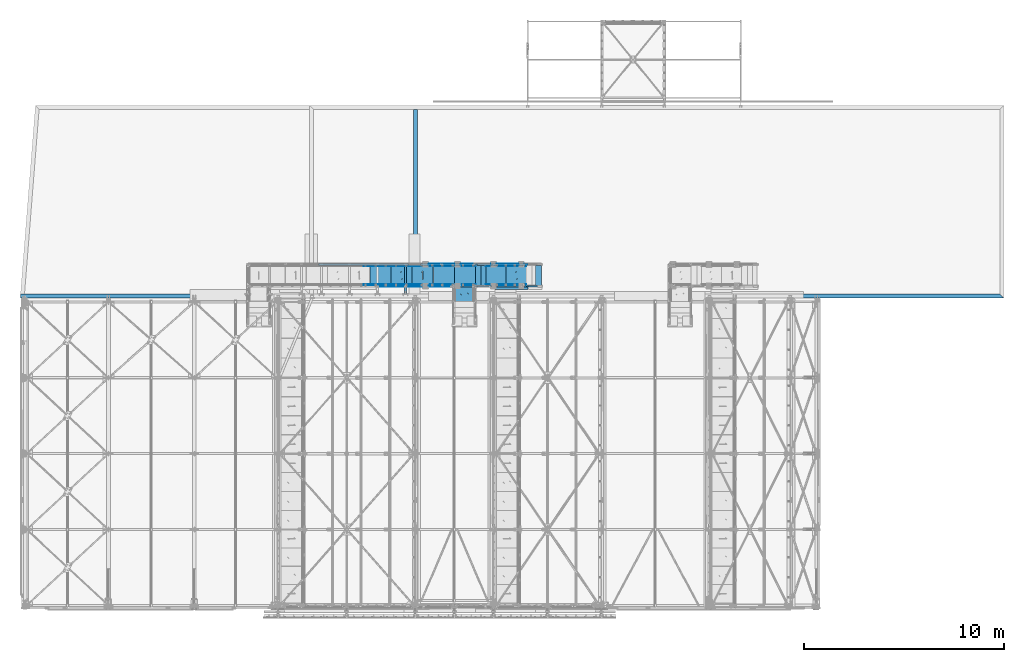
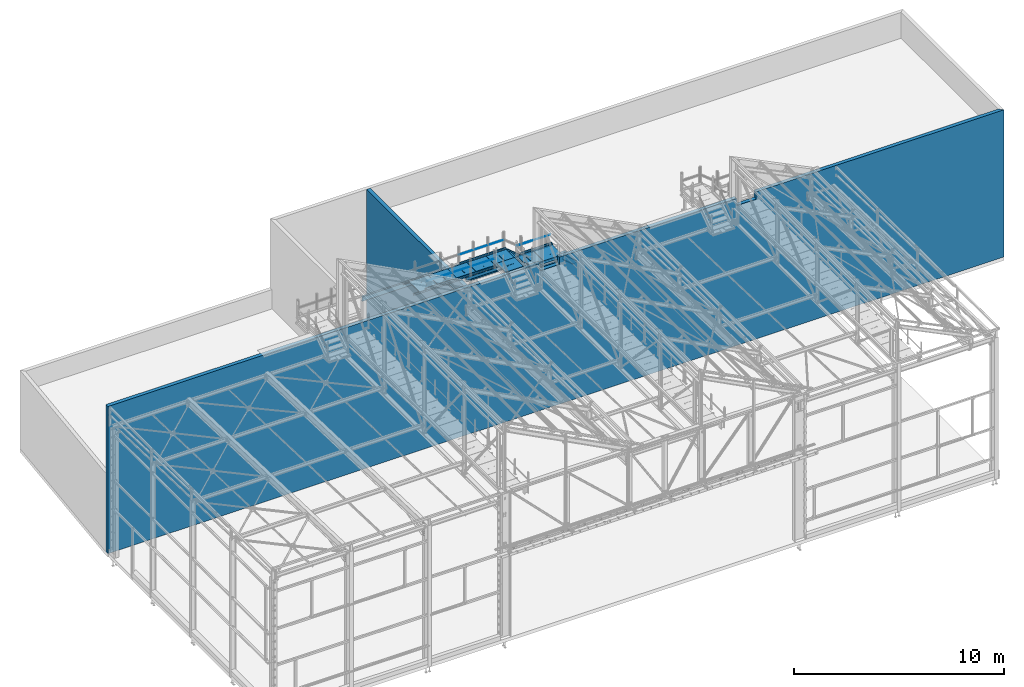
# One storey, part 53 of 362: 30 beams, 3 members, 25 elements without a shape of their own.
"""IFC2X3 building model written with IfcOpenShell, lengths in millimetres."""

from ifc_helpers import new_model, si_unit, frame, origin_with_axes, origin_2d_with_axis, place, context, subcontext, project, spatial, polyline, rectangle, hollow_rectangle, hollow_circle, l_section, u_section, outline, extrude, boolean, clip, halfspace, material, type_object, element, aggregate, save


model = new_model("IFC2X3")

# Units and contexts
model_context = context("Model", 3, precision=1e-05, world=origin_with_axes())
body_context = subcontext(model_context, "Body", "Model", "MODEL_VIEW")
ifc_project = project(units=[si_unit("LENGTHUNIT", "METRE", prefix="MILLI"), si_unit("AREAUNIT", "SQUARE_METRE"), si_unit("VOLUMEUNIT", "CUBIC_METRE"), si_unit("MASSUNIT", "GRAM", prefix="KILO"), si_unit("TIMEUNIT", "SECOND"), si_unit("PLANEANGLEUNIT", "RADIAN"), si_unit("SOLIDANGLEUNIT", "STERADIAN"), si_unit("THERMODYNAMICTEMPERATUREUNIT", "DEGREE_CELSIUS"), si_unit("LUMINOUSINTENSITYUNIT", "LUMEN")], contexts=[model_context])

# Site, building, storey
site_placement = place(None, origin_with_axes())
site = spatial("IfcSite", under=ifc_project, at=site_placement, Name="Undefined", CompositionType="ELEMENT")
building_placement = place(site_placement, origin_with_axes())
building = spatial("IfcBuilding", under=site, at=building_placement, Name="Undefined", CompositionType="ELEMENT")
storey_placement = place(building_placement, origin_with_axes())
storey = spatial("IfcBuildingStorey", under=building, at=storey_placement, Name="Undefined", CompositionType="ELEMENT", Elevation=0.0)

# Assembly, beam
assembly_1_placement = place(storey_placement, origin_with_axes())
assembly_1 = element("IfcElementAssembly", 1, at=assembly_1_placement, inside=storey, Name="CACHE VIDE", AssemblyPlace="NOTDEFINED", PredefinedType="NOTDEFINED")
ifc_material_1 = material(Name="Undefined/S235-E24")
beam_type_1 = type_object("IfcBeamType", Name="PL200*6", PredefinedType="NOTDEFINED")
beam_1_placement = place(assembly_1_placement, frame((25200.0099902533, 15929.9998774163, 8112.9999407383), z_axis=(0.0, -1.0, 0.0), x_axis=(-1.0, 0.0, 0.0)))
beam_1 = element("IfcBeam", 2, at=beam_1_placement, type_object=beam_type_1, material=ifc_material_1, Name="CACHE VIDE", ObjectType="PL200*6", context=body_context, shape_type="SweptSolid", body=[
    extrude(rectangle(XDim=6.0, YDim=200.0, at=origin_2d_with_axis()), frame((1650.0, 0.0, 0.0), z_axis=(-1.0, 0.0, 0.0), x_axis=(0.0, -1.0, 0.0)), (0.0, 0.0, 1.0), 1650.0),
])
aggregate(assembly_1, [beam_1])

assembly_2_placement = place(storey_placement, origin_with_axes())
assembly_2 = element("IfcElementAssembly", 3, at=assembly_2_placement, inside=storey, Name="MAIN COURANTE", AssemblyPlace="NOTDEFINED", PredefinedType="NOTDEFINED")
beam_type_2 = type_object("IfcBeamType", Name="TUBE-21.3*2", PredefinedType="NOTDEFINED")
beam_2_placement = place(assembly_2_placement, frame((17659.9961849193, 15969.9996218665, 9243.80000001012), z_axis=(0.0, -1.0, 0.0), x_axis=(1.0, 0.0, 0.0)))
beam_2 = element("IfcBeam", 4, at=beam_2_placement, type_object=beam_type_2, material=ifc_material_1, Name="LISSE", ObjectType="TUBE-21.3*2", context=body_context, shape_type="SweptSolid", body=[
    extrude(hollow_circle(Radius=10.64999962, WallThickness=2.0, at=origin_2d_with_axis()), frame((3709.98893280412, 0.0, -4.91012946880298e-20), z_axis=(-1.0, 0.0, 0.0), x_axis=(0.0, -1.0, 0.0)), (0.0, 0.0, 1.0), 3709.99),
])
aggregate(assembly_2, [beam_2])

# Assembly, beams
assembly_3_placement = place(storey_placement, origin_with_axes())
assembly_3 = element("IfcElementAssembly", 5, at=assembly_3_placement, inside=storey, Name="MAIN COURANTE", AssemblyPlace="NOTDEFINED", PredefinedType="NOTDEFINED")
beam_3_placement = place(assembly_3_placement, frame((20059.9961849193, 17089.9946261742, 9243.80000001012), z_axis=(0.0, 1.0, 0.0), x_axis=(1.0, 0.0, 0.0)))
beam_3 = element("IfcBeam", 6, at=beam_3_placement, type_object=beam_type_2, material=ifc_material_1, Name="LISSE", ObjectType="TUBE-21.3*2", context=body_context, shape_type="SweptSolid", body=[
    extrude(hollow_circle(Radius=10.64999962, WallThickness=2.0, at=origin_2d_with_axis()), frame((2460.01000000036, 1.81898940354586e-12, 0.0), z_axis=(-1.0, 0.0, 0.0), x_axis=(0.0, -1.0, 0.0)), (0.0, 0.0, 1.0), 2460.01),
])
beam_4_placement = place(assembly_3_placement, frame((23250.3145397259, 17089.9937511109, 8653.80000001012), z_axis=(0.0, 1.0, 0.0), x_axis=(1.0, 0.0, 0.0)))
beam_4 = element("IfcBeam", 7, at=beam_4_placement, type_object=beam_type_2, material=ifc_material_1, Name="LISSE", ObjectType="TUBE-21.3*2", context=body_context, shape_type="Clipping", body=[
    clip(clip(extrude(hollow_circle(Radius=10.64999962, WallThickness=2.0, at=origin_2d_with_axis()), frame((1828.74844172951, -1.81898940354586e-12, 0.0), z_axis=(-1.0, 0.0, 0.0), x_axis=(0.0, -1.0, 0.0)), (0.0, 0.0, 1.0), 1836.49), halfspace(frame((1821.00987948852, 4.36557456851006e-10, -0.00100506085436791), z_axis=(0.940271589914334, 0.340425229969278, -5.78267025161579e-07), x_axis=(0.0, 0.0, 1.0)), False)), halfspace(frame((3.80609846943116, -10.6499996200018, 0.000112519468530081), z_axis=(0.941671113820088, 0.336534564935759, -5.79127732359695e-07), x_axis=(0.0, 0.0, 1.0)), True)),
])

# Assembly, beam
assembly_4_placement = place(storey_placement, origin_with_axes())
assembly_4 = element("IfcElementAssembly", 8, at=assembly_4_placement, inside=storey, Name="CONSOLE", AssemblyPlace="NOTDEFINED", PredefinedType="NOTDEFINED")
beam_type_3 = type_object("IfcBeamType", Name="TUBE-C-100*100*5", PredefinedType="NOTDEFINED")
beam_5_placement = place(assembly_4_placement, frame((19055.0007605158, 17119.9934272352, 8390.0), z_axis=(-1.0, 0.0, 0.0), x_axis=(0.0, -1.0, 0.0)))
beam_5 = element("IfcBeam", 9, at=beam_5_placement, type_object=beam_type_3, material=ifc_material_1, Name="CONSOLE", ObjectType="TUBE-C-100*100*5", context=body_context, shape_type="CSG", body=[
    boolean("DIFFERENCE", extrude(hollow_rectangle(XDim=100.0, YDim=100.0, WallThickness=5.0, InnerFilletRadius=5.0, OuterFilletRadius=10.0, at=origin_2d_with_axis()), frame((1517.99358081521, 0.0, 0.0), z_axis=(-1.0, 0.0, 0.0), x_axis=(0.0, -1.0, 0.0)), (0.0, 0.0, 1.0), 1517.99), extrude(outline(polyline([(0.0, 0.0), (19.9999999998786, -3.63797880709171e-12), (20.0, 300.0), (0.0, 300.0), (-118.0, 275.0), (-118.0, 155.0), (0.0, 0.0)])), frame((1497.99342723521, -215.0, -4.0), z_axis=(0.0, 0.0, 1.0), x_axis=(1.0, 0.0, 0.0)), (0.0, 0.0, 1.0), 8.0)),
])
aggregate(assembly_4, [beam_5])

assembly_5_placement = place(storey_placement, origin_with_axes())
assembly_5 = element("IfcElementAssembly", 10, at=assembly_5_placement, inside=storey, AssemblyPlace="NOTDEFINED", PredefinedType="NOTDEFINED")
beam_type_4 = type_object("IfcBeamType", Name="PL100*5", PredefinedType="NOTDEFINED")
beam_6_placement = place(assembly_5_placement, frame((21439.9851177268, 16002.5124739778, 8760.00000001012), z_axis=(0.0, 0.0, -1.0), x_axis=(-1.0, 0.0, 0.0)))
beam_6 = element("IfcBeam", 11, at=beam_6_placement, type_object=beam_type_4, material=ifc_material_1, Name="PLINTHE", ObjectType="PL100*5", context=body_context, shape_type="SweptSolid", body=[
    extrude(rectangle(XDim=5.0, YDim=100.0, at=origin_2d_with_axis()), frame((3849.98893280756, 0.0, 0.0), z_axis=(-1.0, 0.0, 0.0), x_axis=(0.0, -1.0, 0.0)), (0.0, 0.0, 1.0), 3849.99),
])
aggregate(assembly_5, [beam_6])

# Beam
beam_7_placement = place(assembly_3_placement, frame((25144.9962475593, 17057.481480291, 8170.00000001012), z_axis=(0.0, 0.0, -1.0), x_axis=(-1.0, 0.0, 0.0)))
beam_7 = element("IfcBeam", 12, at=beam_7_placement, type_object=beam_type_4, material=ifc_material_1, Name="PLINTHE", ObjectType="PL100*5", context=body_context, shape_type="SweptSolid", body=[
    extrude(rectangle(XDim=5.0, YDim=100.0, at=origin_2d_with_axis()), frame((1734.99407492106, 0.0, 0.0), z_axis=(-1.0, 0.0, 0.0), x_axis=(0.0, -1.0, 0.0)), (0.0, 0.0, 1.0), 1734.99),
])

beam_8_placement = place(assembly_3_placement, frame((22604.9962475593, 17057.481480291, 8760.00000001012), z_axis=(0.0, 0.0, -1.0), x_axis=(-1.0, 0.0, 0.0)))
beam_8 = element("IfcBeam", 13, at=beam_8_placement, type_object=beam_type_4, material=ifc_material_1, Name="PLINTHE", ObjectType="PL100*5", context=body_context, shape_type="SweptSolid", body=[
    extrude(rectangle(XDim=5.0, YDim=100.0, at=origin_2d_with_axis()), frame((2550.00006264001, 0.0, 0.0), z_axis=(-1.0, 0.0, 0.0), x_axis=(0.0, -1.0, 0.0)), (0.0, 0.0, 1.0), 2550.0),
])

aggregate(assembly_3, [beam_3, beam_4, beam_7, beam_8])

# Assembly, beam
assembly_6_placement = place(storey_placement, origin_with_axes())
assembly_6 = element("IfcElementAssembly", 14, at=assembly_6_placement, inside=storey, Name="PALIER", AssemblyPlace="NOTDEFINED", PredefinedType="NOTDEFINED")
beam_type_5 = type_object("IfcBeamType", Name="PL30*990", PredefinedType="NOTDEFINED")
beam_9_placement = place(assembly_6_placement, frame((18324.9999902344, 16530.001494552, 8685.0), z_axis=(0.0, 1.0, 0.0), x_axis=(-1.0, 0.0, 0.0)))
beam_9 = element("IfcBeam", 15, at=beam_9_placement, type_object=beam_type_5, material=ifc_material_1, Name="PALIER", ObjectType="PL30*990", context=body_context, shape_type="CSG", body=[
    boolean("DIFFERENCE", extrude(rectangle(XDim=30.0, YDim=990.0, at=origin_2d_with_axis()), frame((1050.0, 0.0, 0.0), z_axis=(-1.0, 0.0, 0.0), x_axis=(0.0, -1.0, 0.0)), (0.0, 0.0, 1.0), 1050.0), extrude(outline(polyline([(0.0, 0.0), (87.0678024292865, -7.27595761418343e-12), (-195.774902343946, 282.842712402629), (-132.842712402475, 282.842712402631), (-132.842712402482, 292.84271240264), (-219.917037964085, 292.84271240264), (62.9256706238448, 10.0000000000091), (-1.81898940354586e-10, 10.0000000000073), (0.0, 0.0)])), frame((468.433762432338, 17.4998126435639, -150.504333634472), z_axis=(0.0, -1.0, 0.0), x_axis=(0.707106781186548, 0.0, -0.707106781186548)), (0.0, 0.0, 1.0), 35.0)),
])
aggregate(assembly_6, [beam_9])

assembly_7_placement = place(storey_placement, origin_with_axes())
assembly_7 = element("IfcElementAssembly", 16, at=assembly_7_placement, inside=storey, Name="PALIER", AssemblyPlace="NOTDEFINED", PredefinedType="NOTDEFINED")
beam_10_placement = place(assembly_7_placement, frame((19384.9999902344, 16530.001494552, 8685.0), z_axis=(0.0, 1.0, 0.0), x_axis=(-1.0, 0.0, 0.0)))
beam_10 = element("IfcBeam", 17, at=beam_10_placement, type_object=beam_type_5, material=ifc_material_1, Name="PALIER", ObjectType="PL30*990", context=body_context, shape_type="CSG", body=[
    boolean("DIFFERENCE", extrude(rectangle(XDim=30.0, YDim=990.0, at=origin_2d_with_axis()), frame((1050.0, 0.0, 0.0), z_axis=(-1.0, 0.0, 0.0), x_axis=(0.0, -1.0, 0.0)), (0.0, 0.0, 1.0), 1050.0), extrude(outline(polyline([(0.0, 0.0), (87.0678024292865, -7.27595761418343e-12), (-195.774902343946, 282.842712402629), (-132.842712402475, 282.842712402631), (-132.842712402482, 292.84271240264), (-219.917037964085, 292.84271240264), (62.9256706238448, 10.0000000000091), (-1.81898940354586e-10, 10.0000000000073), (0.0, 0.0)])), frame((468.433762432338, 17.4998126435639, -150.504333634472), z_axis=(0.0, -1.0, 0.0), x_axis=(0.707106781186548, 0.0, -0.707106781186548)), (0.0, 0.0, 1.0), 35.0)),
])
aggregate(assembly_7, [beam_10])

assembly_8_placement = place(storey_placement, origin_with_axes())
assembly_8 = element("IfcElementAssembly", 18, at=assembly_8_placement, inside=storey, Name="PALIER", AssemblyPlace="NOTDEFINED", PredefinedType="NOTDEFINED")
beam_11_placement = place(assembly_8_placement, frame((20444.9999902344, 16530.001494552, 8685.0), z_axis=(0.0, 1.0, 0.0), x_axis=(-1.0, 0.0, 0.0)))
beam_11 = element("IfcBeam", 19, at=beam_11_placement, type_object=beam_type_5, material=ifc_material_1, Name="PALIER", ObjectType="PL30*990", context=body_context, shape_type="CSG", body=[
    boolean("DIFFERENCE", extrude(rectangle(XDim=30.0, YDim=990.0, at=origin_2d_with_axis()), frame((1050.0, 0.0, 0.0), z_axis=(-1.0, 0.0, 0.0), x_axis=(0.0, -1.0, 0.0)), (0.0, 0.0, 1.0), 1050.0), extrude(outline(polyline([(0.0, 0.0), (87.0678024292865, -7.27595761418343e-12), (-195.774902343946, 282.842712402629), (-132.842712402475, 282.842712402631), (-132.842712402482, 292.84271240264), (-219.917037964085, 292.84271240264), (62.9256706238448, 10.0000000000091), (-1.81898940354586e-10, 10.0000000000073), (0.0, 0.0)])), frame((468.433762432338, 17.4998126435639, -150.504333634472), z_axis=(0.0, -1.0, 0.0), x_axis=(0.707106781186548, 0.0, -0.707106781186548)), (0.0, 0.0, 1.0), 35.0)),
])
aggregate(assembly_8, [beam_11])

assembly_9_placement = place(storey_placement, origin_with_axes())
assembly_9 = element("IfcElementAssembly", 20, at=assembly_9_placement, inside=storey, Name="PALIER", AssemblyPlace="NOTDEFINED", PredefinedType="NOTDEFINED")
beam_12_placement = place(assembly_9_placement, frame((21504.9999902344, 16530.001494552, 8685.0), z_axis=(0.0, 1.0, 0.0), x_axis=(-1.0, 0.0, 0.0)))
beam_12 = element("IfcBeam", 21, at=beam_12_placement, type_object=beam_type_5, material=ifc_material_1, Name="PALIER", ObjectType="PL30*990", context=body_context, shape_type="CSG", body=[
    boolean("DIFFERENCE", extrude(rectangle(XDim=30.0, YDim=990.0, at=origin_2d_with_axis()), frame((1050.0, 0.0, 0.0), z_axis=(-1.0, 0.0, 0.0), x_axis=(0.0, -1.0, 0.0)), (0.0, 0.0, 1.0), 1050.0), extrude(outline(polyline([(0.0, 0.0), (87.0678024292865, -7.27595761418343e-12), (-195.774902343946, 282.842712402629), (-132.842712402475, 282.842712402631), (-132.842712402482, 292.84271240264), (-219.917037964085, 292.84271240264), (62.9256706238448, 10.0000000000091), (-1.81898940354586e-10, 10.0000000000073), (0.0, 0.0)])), frame((468.433762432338, 17.4998126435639, -150.504333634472), z_axis=(0.0, -1.0, 0.0), x_axis=(0.707106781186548, 0.0, -0.707106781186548)), (0.0, 0.0, 1.0), 35.0)),
])
aggregate(assembly_9, [beam_12])

assembly_10_placement = place(storey_placement, origin_with_axes())
assembly_10 = element("IfcElementAssembly", 22, at=assembly_10_placement, inside=storey, Name="PALIER", AssemblyPlace="NOTDEFINED", PredefinedType="NOTDEFINED")
beam_13_placement = place(assembly_10_placement, frame((22009.9938089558, 16019.9996347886, 8865.0), z_axis=(-1.0, 0.0, 0.0), x_axis=(0.0, -1.0, 0.0)))
beam_13 = element("IfcBeam", 23, at=beam_13_placement, type_object=beam_type_5, material=ifc_material_1, Name="PALIER", ObjectType="PL30*990", context=body_context, shape_type="CSG", body=[
    boolean("DIFFERENCE", extrude(rectangle(XDim=30.0, YDim=990.0, at=origin_2d_with_axis()), frame((844.999862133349, 0.0, 0.0), z_axis=(-1.0, 0.0, 0.0), x_axis=(0.0, -1.0, 0.0)), (0.0, 0.0, 1.0), 845.0), extrude(outline(polyline([(0.0, 0.0), (87.0678024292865, -7.27595761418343e-12), (-195.774902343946, 282.842712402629), (-132.842712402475, 282.842712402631), (-132.842712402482, 292.84271240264), (-219.917037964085, 292.84271240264), (62.9256706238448, 10.0000000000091), (-1.81898940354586e-10, 10.0000000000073), (0.0, 0.0)])), frame((365.93647293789, 17.4998126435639, -150.509457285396), z_axis=(0.0, -1.0, 0.0), x_axis=(0.707106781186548, 0.0, -0.707106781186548)), (0.0, 0.0, 1.0), 35.0)),
])
aggregate(assembly_10, [beam_13])

assembly_11_placement = place(storey_placement, origin_with_axes())
assembly_11 = element("IfcElementAssembly", 24, at=assembly_11_placement, inside=storey, Name="PALIER", AssemblyPlace="NOTDEFINED", PredefinedType="NOTDEFINED")
beam_14_placement = place(assembly_11_placement, frame((25144.9999902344, 16530.001494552, 8094.9999407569), z_axis=(0.0, 1.0, 0.0), x_axis=(-1.0, 0.0, 0.0)))
beam_14 = element("IfcBeam", 25, at=beam_14_placement, type_object=beam_type_5, material=ifc_material_1, Name="PALIER", ObjectType="PL30*990", context=body_context, shape_type="CSG", body=[
    boolean("DIFFERENCE", extrude(rectangle(XDim=30.0, YDim=990.0, at=origin_2d_with_axis()), frame((1050.0, 0.0, 0.0), z_axis=(-1.0, 0.0, 0.0), x_axis=(0.0, -1.0, 0.0)), (0.0, 0.0, 1.0), 1050.0), extrude(outline(polyline([(0.0, 0.0), (87.0678024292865, -7.27595761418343e-12), (-195.774902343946, 282.842712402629), (-132.842712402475, 282.842712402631), (-132.842712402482, 292.84271240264), (-219.917037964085, 292.84271240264), (62.9256706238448, 10.0000000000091), (-1.81898940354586e-10, 10.0000000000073), (0.0, 0.0)])), frame((468.433764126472, 17.5, -150.504124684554), z_axis=(0.0, -1.0, 0.0), x_axis=(0.707106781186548, 0.0, -0.707106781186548)), (0.0, 0.0, 1.0), 35.0)),
])
aggregate(assembly_11, [beam_14])

assembly_12_placement = place(storey_placement, origin_with_axes())
assembly_12 = element("IfcElementAssembly", 26, at=assembly_12_placement, inside=storey, Name="PALIER", AssemblyPlace="NOTDEFINED", PredefinedType="NOTDEFINED")
beam_15_placement = place(assembly_12_placement, frame((22604.9999902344, 16530.001494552, 8685.0), z_axis=(0.0, 1.0, 0.0), x_axis=(-1.0, 0.0, 0.0)))
beam_15 = element("IfcBeam", 27, at=beam_15_placement, type_object=beam_type_5, material=ifc_material_1, Name="PALIER", ObjectType="PL30*990", context=body_context, shape_type="CSG", body=[
    boolean("DIFFERENCE", extrude(rectangle(XDim=30.0, YDim=990.0, at=origin_2d_with_axis()), frame((1090.0, 0.0, 0.0), z_axis=(-1.0, 0.0, 0.0), x_axis=(0.0, -1.0, 0.0)), (0.0, 0.0, 1.0), 1090.0), extrude(outline(polyline([(0.0, 0.0), (87.0678024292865, -7.27595761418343e-12), (-195.774902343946, 282.842712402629), (-132.842712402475, 282.842712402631), (-132.842712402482, 292.84271240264), (-219.917037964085, 292.84271240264), (62.9256706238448, 10.0000000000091), (-1.81898940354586e-10, 10.0000000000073), (0.0, 0.0)])), frame((488.433762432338, 17.4998126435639, -150.504333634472), z_axis=(0.0, -1.0, 0.0), x_axis=(0.707106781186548, 0.0, -0.707106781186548)), (0.0, 0.0, 1.0), 35.0)),
])
aggregate(assembly_12, [beam_15])

assembly_13_placement = place(storey_placement, origin_with_axes())
assembly_13 = element("IfcElementAssembly", 28, at=assembly_13_placement, inside=storey, Name="PALIER", AssemblyPlace="NOTDEFINED", PredefinedType="NOTDEFINED")
beam_16_placement = place(assembly_13_placement, frame((24084.9999902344, 16530.001494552, 8094.9999407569), z_axis=(0.0, 1.0, 0.0), x_axis=(-1.0, 0.0, 0.0)))
beam_16 = element("IfcBeam", 29, at=beam_16_placement, type_object=beam_type_5, material=ifc_material_1, Name="PALIER", ObjectType="PL30*990", context=body_context, shape_type="CSG", body=[
    boolean("DIFFERENCE", extrude(rectangle(XDim=30.0, YDim=990.0, at=origin_2d_with_axis()), frame((1050.0, 0.0, 0.0), z_axis=(-1.0, 0.0, 0.0), x_axis=(0.0, -1.0, 0.0)), (0.0, 0.0, 1.0), 1050.0), extrude(outline(polyline([(0.0, 0.0), (87.0678024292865, -7.27595761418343e-12), (-195.774902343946, 282.842712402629), (-132.842712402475, 282.842712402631), (-132.842712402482, 292.84271240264), (-219.917037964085, 292.84271240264), (62.9256706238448, 10.0000000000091), (-1.81898940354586e-10, 10.0000000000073), (0.0, 0.0)])), frame((468.433764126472, 17.5, -150.504124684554), z_axis=(0.0, -1.0, 0.0), x_axis=(0.707106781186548, 0.0, -0.707106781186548)), (0.0, 0.0, 1.0), 35.0)),
])
aggregate(assembly_13, [beam_16])

assembly_14_placement = place(storey_placement, origin_with_axes())
assembly_14 = element("IfcElementAssembly", 30, at=assembly_14_placement, inside=storey, Name="SUPPORT", AssemblyPlace="NOTDEFINED", PredefinedType="NOTDEFINED")
beam_type_6 = type_object("IfcBeamType", Name="L50*5", PredefinedType="NOTDEFINED")
beam_17_placement = place(assembly_14_placement, frame((16965.0018572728, 17004.9971808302, 8645.0), z_axis=(0.0, -1.0, 0.0), x_axis=(1.0, 0.0, 0.0)))
beam_17 = element("IfcBeam", 31, at=beam_17_placement, type_object=beam_type_6, material=ifc_material_1, Name="SUPPORT", ObjectType="L50*5", context=body_context, shape_type="SweptSolid", body=[
    extrude(l_section(Depth=50.0, Width=50.0, Thickness=5.0, FilletRadius=7.0, EdgeRadius=3.5, at=origin_2d_with_axis()), frame((5599.99811694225, -1.81898940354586e-12, 0.0), z_axis=(-1.0, 0.0, 0.0), x_axis=(0.0, -1.0, 0.0)), (0.0, 0.0, 1.0), 5600.0),
])
aggregate(assembly_14, [beam_17])

assembly_15_placement = place(storey_placement, origin_with_axes())
assembly_15 = element("IfcElementAssembly", 32, at=assembly_15_placement, inside=storey, Name="SUPPORT", AssemblyPlace="NOTDEFINED", PredefinedType="NOTDEFINED")
beam_18_placement = place(assembly_15_placement, frame((25094.9999902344, 17005.0001225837, 8054.9999407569), z_axis=(0.0, 0.0, -1.0), x_axis=(-1.0, 0.0, 0.0)))
beam_18 = element("IfcBeam", 33, at=beam_18_placement, type_object=beam_type_6, material=ifc_material_1, Name="SUPPORT", ObjectType="L50*5", context=body_context, shape_type="SweptSolid", body=[
    extrude(l_section(Depth=50.0, Width=50.0, Thickness=5.0, FilletRadius=7.0, EdgeRadius=3.5, at=origin_2d_with_axis()), frame((2009.99999989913, 0.0, 0.0), z_axis=(-1.0, 0.0, 0.0), x_axis=(0.0, -1.0, 0.0)), (0.0, 0.0, 1.0), 2010.0),
])
aggregate(assembly_15, [beam_18])

assembly_16_placement = place(storey_placement, origin_with_axes())
assembly_16 = element("IfcElementAssembly", 34, at=assembly_16_placement, inside=storey, Name="SUPPORT", AssemblyPlace="NOTDEFINED", PredefinedType="NOTDEFINED")
beam_19_placement = place(assembly_16_placement, frame((22564.9999742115, 16055.0064199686, 8645.0), z_axis=(0.0, 1.0, 0.0), x_axis=(-1.0, 0.0, 0.0)))
beam_19 = element("IfcBeam", 35, at=beam_19_placement, type_object=beam_type_6, material=ifc_material_1, Name="SUPPORT", ObjectType="L50*5", context=body_context, shape_type="SweptSolid", body=[
    extrude(l_section(Depth=50.0, Width=50.0, Thickness=5.0, FilletRadius=7.0, EdgeRadius=3.5, at=origin_2d_with_axis()), frame((5599.99811694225, -1.81898940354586e-12, 0.0), z_axis=(-1.0, 0.0, 0.0), x_axis=(0.0, -1.0, 0.0)), (0.0, 0.0, 1.0), 5600.0),
])
aggregate(assembly_16, [beam_19])

assembly_17_placement = place(storey_placement, origin_with_axes())
assembly_17 = element("IfcElementAssembly", 36, at=assembly_17_placement, inside=storey, Name="SUPPORT", AssemblyPlace="NOTDEFINED", PredefinedType="NOTDEFINED")
beam_20_placement = place(assembly_17_placement, frame((23084.9999903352, 16054.9998774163, 8054.9999407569), z_axis=(0.0, 0.0, -1.0), x_axis=(1.0, 0.0, 0.0)))
beam_20 = element("IfcBeam", 37, at=beam_20_placement, type_object=beam_type_6, material=ifc_material_1, Name="SUPPORT", ObjectType="L50*5", context=body_context, shape_type="SweptSolid", body=[
    extrude(l_section(Depth=50.0, Width=50.0, Thickness=5.0, FilletRadius=7.0, EdgeRadius=3.5, at=origin_2d_with_axis()), frame((2009.99999989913, 0.0, 0.0), z_axis=(-1.0, 0.0, 0.0), x_axis=(0.0, -1.0, 0.0)), (0.0, 0.0, 1.0), 2010.0),
])
aggregate(assembly_17, [beam_20])

# Assembly, member
assembly_18_placement = place(storey_placement, origin_with_axes())
assembly_18 = element("IfcElementAssembly", 38, at=assembly_18_placement, inside=storey, AssemblyPlace="NOTDEFINED", PredefinedType="NOTDEFINED")
ifc_material_2 = material(Name="Undefined/S275-E28")
member_type = type_object("IfcMemberType", Name="UPN260", PredefinedType="NOTDEFINED")
member_1_placement = place(assembly_18_placement, frame((23303.6359782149, 15984.9998774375, 8009.44650543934), z_axis=(-0.63380948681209, 0.0, -0.77348919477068), x_axis=(-0.773488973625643, 0.0, 0.633809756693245)))
member_1 = element("IfcMember", 39, at=member_1_placement, type_object=member_type, material=ifc_material_2, Name="LIMON", ObjectType="UPN260", context=body_context, shape_type="Clipping", body=[
    clip(clip(extrude(u_section(Depth=260.0, FlangeWidth=90.0, WebThickness=10.0, FlangeThickness=14.0, FilletRadius=14.0, EdgeRadius=7.0, FlangeSlope=0.0798299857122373, at=origin_2d_with_axis()), frame((1123.44862759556, -1.81898940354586e-12, 0.0), z_axis=(-1.0, 0.0, 0.0), x_axis=(0.0, -1.0, 0.0)), (0.0, 0.0, 1.0), 1408.94), halfspace(frame((930.878776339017, 45.006178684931, -130.000000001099), z_axis=(0.941671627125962, 0.0, 0.336533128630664), x_axis=(0.0, -1.0, 0.0)), False)), halfspace(frame((-1.09252141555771e-07, 44.9999999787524, -129.999999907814), z_axis=(-0.941673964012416, 0.0, -0.336526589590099), x_axis=(0.0, 1.0, 0.0)), False)),
])

assembly_19_placement = place(storey_placement, origin_with_axes())
assembly_19 = element("IfcElementAssembly", 40, at=assembly_19_placement, inside=storey, AssemblyPlace="NOTDEFINED", PredefinedType="NOTDEFINED")
member_2_placement = place(assembly_19_placement, frame((22583.6110682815, 17074.9960163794, 8599.44642100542), z_axis=(-0.633810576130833, -1.31300000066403e-06, -0.773488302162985), x_axis=(0.773488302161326, 1.60200000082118e-06, -0.633810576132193)))
member_2 = element("IfcMember", 41, at=member_2_placement, type_object=member_type, material=ifc_material_2, Name="LIMON", ObjectType="UPN260", context=body_context, shape_type="Clipping", body=[
    clip(clip(extrude(u_section(Depth=260.0, FlangeWidth=90.0, WebThickness=10.0, FlangeThickness=14.0, FilletRadius=14.0, EdgeRadius=7.0, FlangeSlope=0.0798299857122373, at=origin_2d_with_axis()), frame((1216.36733735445, -2.10852457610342e-19, -3.63797880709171e-12), z_axis=(-1.0, 0.0, 0.0), x_axis=(0.0, -1.0, 0.0)), (0.0, 0.0, 1.0), 1408.94), halfspace(frame((930.877174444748, 1044.99780092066, -129.999997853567), z_axis=(0.941673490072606, 1.95042208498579e-06, -0.336527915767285), x_axis=(1.60200000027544e-06, -0.999999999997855, -1.31300000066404e-06)), False)), halfspace(frame((92.9171561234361, 1044.99611712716, 130.001182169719), z_axis=(-0.941671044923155, -1.95042715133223e-06, 0.336534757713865), x_axis=(1.60200000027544e-06, -0.999999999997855, -1.31300000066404e-06)), False)),
])

# Member
member_3_placement = place(assembly_18_placement, frame((25999.7706127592, 15984.9998774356, 7278.46901234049), z_axis=(-0.640184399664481, 0.0, -0.768221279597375), x_axis=(-0.768221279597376, 0.0, 0.640184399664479)))
member_3 = element("IfcMember", 42, at=member_3_placement, type_object=member_type, material=ifc_material_2, Name="LIMON", ObjectType="UPN260", context=body_context, shape_type="Clipping", body=[
    clip(clip(clip(extrude(u_section(Depth=260.0, FlangeWidth=90.0, WebThickness=10.0, FlangeThickness=14.0, FilletRadius=14.0, EdgeRadius=7.0, FlangeSlope=0.0798299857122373, at=origin_2d_with_axis()), frame((1237.09223205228, 1.81898940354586e-12, -3.70665122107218e-12), z_axis=(-1.0, 0.0, 0.0), x_axis=(0.0, -1.0, 0.0)), (0.0, 0.0, 1.0), 1237.09), halfspace(frame((245.689170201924, 45.0000000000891, -149.914659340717), z_axis=(-0.768221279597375, 0.0, -0.640184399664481), x_axis=(0.0, 1.0, 0.0)), False)), halfspace(frame((-72.2625156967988, 45.0000000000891, -189.778996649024), z_axis=(-0.640184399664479, 0.0, 0.768221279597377), x_axis=(0.0, 1.0, 0.0)), False)), halfspace(frame((1048.75984968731, 45.0000000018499, 130.000000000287), z_axis=(0.940271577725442, 0.0, 0.340425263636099), x_axis=(0.0, 1.0, 0.0)), False)),
])

# Assembly, beam
assembly_20_placement = place(storey_placement, origin_with_axes())
assembly_20 = element("IfcElementAssembly", 43, at=assembly_20_placement, inside=storey, AssemblyPlace="NOTDEFINED", PredefinedType="NOTDEFINED")
beam_type_7 = type_object("IfcBeamType", Name="UPN260", PredefinedType="NOTDEFINED")
beam_21_placement = place(assembly_20_placement, frame((14705.0023015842, 17074.9935807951, 8570.00000000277), z_axis=(0.0, 0.0, -1.0), x_axis=(0.999999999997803, 2.09200000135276e-06, 1.31999999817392e-07)))
beam_21 = element("IfcBeam", 44, at=beam_21_placement, type_object=beam_type_7, material=ifc_material_2, Name="LIMON", ObjectType="UPN260", context=body_context, shape_type="SweptSolid", body=[
    extrude(u_section(Depth=260.0, FlangeWidth=90.0, WebThickness=10.0, FlangeThickness=14.0, FilletRadius=14.0, EdgeRadius=7.0, FlangeSlope=0.0798299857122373, at=origin_2d_with_axis()), frame((4499.99600895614, 5.18446821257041e-20, 1.19113902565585e-19), z_axis=(-1.0, 0.0, 0.0), x_axis=(0.0, -1.0, 0.0)), (0.0, 0.0, 1.0), 4500.0),
])
aggregate(assembly_20, [beam_21])

# Beam
beam_22_placement = place(assembly_19_placement, frame((23386.0289487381, 17074.9976786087, 7980.00020022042), z_axis=(0.0, 0.0, -1.0), x_axis=(0.999999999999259, 1.20900000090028e-06, -1.42999999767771e-07)))
beam_22 = element("IfcBeam", 45, at=beam_22_placement, type_object=beam_type_7, material=ifc_material_2, Name="LIMON", ObjectType="UPN260", context=body_context, shape_type="Clipping", body=[
    clip(clip(extrude(u_section(Depth=260.0, FlangeWidth=90.0, WebThickness=10.0, FlangeThickness=14.0, FilletRadius=14.0, EdgeRadius=7.0, FlangeSlope=0.0798299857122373, at=origin_2d_with_axis()), frame((1866.36594337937, -9.86806740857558e-20, 4.94022951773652e-20), z_axis=(-1.0, 0.0, 0.0), x_axis=(0.0, -1.0, 0.0)), (0.0, 0.0, 1.0), 2007.29), halfspace(frame((1818.9697595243, 1045.00000030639, -130.000000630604), z_axis=(0.940271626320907, 1.13678839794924e-06, 0.340425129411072), x_axis=(1.83599999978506e-06, -0.999999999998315, 0.0)), False)), halfspace(frame((-0.00120920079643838, 1044.99780119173, -130.000000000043), z_axis=(0.94167098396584, 1.13848022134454e-06, 0.336534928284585), x_axis=(1.83599999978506e-06, -0.999999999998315, 0.0)), True)),
])

beam_23_placement = place(assembly_18_placement, frame((25204.9999788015, 15984.9998774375, 7979.99994075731), z_axis=(0.0, 0.0, -1.0), x_axis=(-1.0, 0.0, 0.0)))
beam_23 = element("IfcBeam", 46, at=beam_23_placement, type_object=beam_type_7, material=ifc_material_2, Name="LIMON", ObjectType="UPN260", context=body_context, shape_type="Clipping", body=[
    clip(clip(extrude(u_section(Depth=260.0, FlangeWidth=90.0, WebThickness=10.0, FlangeThickness=14.0, FilletRadius=14.0, EdgeRadius=7.0, FlangeSlope=0.0798299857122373, at=origin_2d_with_axis()), frame((1959.89175727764, 0.0, 0.0), z_axis=(-1.0, 0.0, 0.0), x_axis=(0.0, -1.0, 0.0)), (0.0, 0.0, 1.0), 2007.29), halfspace(frame((1818.97096871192, 44.9999999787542, -130.000099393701), z_axis=(-0.941670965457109, 0.0, 0.336534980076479), x_axis=(0.0, 1.0, 0.0)), True)), halfspace(frame((-1.09252141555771e-07, 44.9999999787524, -129.999999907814), z_axis=(-0.940271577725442, 0.0, 0.340425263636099), x_axis=(0.0, 1.0, 0.0)), False)),
])

beam_24_placement = place(assembly_18_placement, frame((22666.0066060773, 15985.0038129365, 8570.00016502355), z_axis=(0.0, 0.0, -1.0), x_axis=(-0.99999999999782, -2.08799999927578e-06, 0.0)))
beam_24 = element("IfcBeam", 47, at=beam_24_placement, type_object=beam_type_7, material=ifc_material_2, Name="LIMON", ObjectType="UPN260", context=body_context, shape_type="Clipping", body=[
    clip(extrude(u_section(Depth=260.0, FlangeWidth=90.0, WebThickness=10.0, FlangeThickness=14.0, FilletRadius=14.0, EdgeRadius=7.0, FlangeSlope=0.0798299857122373, at=origin_2d_with_axis()), frame((2851.00654621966, 1.81898875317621e-12, -1.81898940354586e-12), z_axis=(-1.0, 0.0, 0.0), x_axis=(0.0, -1.0, 0.0)), (0.0, 0.0, 1.0), 2851.47), halfspace(frame((-0.00137994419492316, 1044.9963096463, -129.999999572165), z_axis=(-0.941670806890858, -1.29950571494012e-06, 0.336535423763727), x_axis=(0.336535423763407, 4.64418881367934e-07, 0.941670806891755)), False)),
])

aggregate(assembly_18, [member_1, beam_23, member_3, beam_24])

beam_25_placement = place(assembly_19_placement, frame((19815.0000560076, 17074.9998774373, 8570.00000000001), z_axis=(0.0, 0.0, -1.0), x_axis=(0.999999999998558, -1.69800000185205e-06, 0.0)))
beam_25 = element("IfcBeam", 48, at=beam_25_placement, type_object=beam_type_7, material=ifc_material_2, Name="LIMON", ObjectType="UPN260", context=body_context, shape_type="Clipping", body=[
    clip(extrude(u_section(Depth=260.0, FlangeWidth=90.0, WebThickness=10.0, FlangeThickness=14.0, FilletRadius=14.0, EdgeRadius=7.0, FlangeSlope=0.0798299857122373, at=origin_2d_with_axis()), frame((2851.47127539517, 3.63797847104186e-12, 0.0), z_axis=(-1.0, 0.0, 0.0), x_axis=(0.0, -1.0, 0.0)), (0.0, 0.0, 1.0), 2851.47), halfspace(frame((2851.00784014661, 1044.99631081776, -129.999999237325), z_axis=(0.941670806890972, -1.21852202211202e-06, 0.336535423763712), x_axis=(-1.83600000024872e-06, -0.999999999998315, 0.0)), False)),
])

aggregate(assembly_19, [beam_22, member_2, beam_25])

# Assembly, beam
assembly_21_placement = place(storey_placement, origin_with_axes())
assembly_21 = element("IfcElementAssembly", 49, at=assembly_21_placement, inside=storey, Name="MARCHE", AssemblyPlace="NOTDEFINED", PredefinedType="NOTDEFINED")
beam_type_8 = type_object("IfcBeamType", Name="PL30*994", PredefinedType="NOTDEFINED")
beam_26_placement = place(assembly_21_placement, frame((25864.9999902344, 16530.001494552, 7495.0), z_axis=(0.0, 1.0, 0.0), x_axis=(-1.0, 0.0, 0.0)))
beam_26 = element("IfcBeam", 50, at=beam_26_placement, type_object=beam_type_8, material=ifc_material_1, Name="MARCHE", ObjectType="PL30*994", context=body_context, shape_type="SweptSolid", body=[
    extrude(rectangle(XDim=30.0, YDim=994.0, at=origin_2d_with_axis()), frame((290.0, 0.0, 0.0), z_axis=(-1.0, 0.0, 0.0), x_axis=(0.0, -1.0, 0.0)), (0.0, 0.0, 1.0), 290.0),
])
aggregate(assembly_21, [beam_26])

assembly_22_placement = place(storey_placement, origin_with_axes())
assembly_22 = element("IfcElementAssembly", 51, at=assembly_22_placement, inside=storey, Name="MARCHE", AssemblyPlace="NOTDEFINED", PredefinedType="NOTDEFINED")
beam_27_placement = place(assembly_22_placement, frame((23084.9999902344, 16530.001494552, 8291.6699407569), z_axis=(0.0, 1.0, 0.0), x_axis=(-1.0, 0.0, 0.0)))
beam_27 = element("IfcBeam", 52, at=beam_27_placement, type_object=beam_type_8, material=ifc_material_1, Name="MARCHE", ObjectType="PL30*994", context=body_context, shape_type="SweptSolid", body=[
    extrude(rectangle(XDim=30.0, YDim=994.0, at=origin_2d_with_axis()), frame((290.0, 0.0, 0.0), z_axis=(-1.0, 0.0, 0.0), x_axis=(0.0, -1.0, 0.0)), (0.0, 0.0, 1.0), 290.0),
])
aggregate(assembly_22, [beam_27])

assembly_23_placement = place(storey_placement, origin_with_axes())
assembly_23 = element("IfcElementAssembly", 53, at=assembly_23_placement, inside=storey, Name="MARCHE", AssemblyPlace="NOTDEFINED", PredefinedType="NOTDEFINED")
beam_28_placement = place(assembly_23_placement, frame((22844.9999902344, 16530.001494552, 8488.3299407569), z_axis=(0.0, 1.0, 0.0), x_axis=(-1.0, 0.0, 0.0)))
beam_28 = element("IfcBeam", 54, at=beam_28_placement, type_object=beam_type_8, material=ifc_material_1, Name="MARCHE", ObjectType="PL30*994", context=body_context, shape_type="SweptSolid", body=[
    extrude(rectangle(XDim=30.0, YDim=994.0, at=origin_2d_with_axis()), frame((290.0, 0.0, 0.0), z_axis=(-1.0, 0.0, 0.0), x_axis=(0.0, -1.0, 0.0)), (0.0, 0.0, 1.0), 290.0),
])
aggregate(assembly_23, [beam_28])

assembly_24_placement = place(storey_placement, origin_with_axes())
assembly_24 = element("IfcElementAssembly", 55, at=assembly_24_placement, inside=storey, Name="POUTRE", AssemblyPlace="NOTDEFINED", PredefinedType="REINFORCEMENT_UNIT")
ifc_material_3 = material(Name="CONCRETE/C25/30")
beam_type_9 = type_object("IfcBeamType", Name="8550*200", PredefinedType="NOTDEFINED")
beam_29_placement = place(assembly_24_placement, frame((19554.9999999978, 15589.9999107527, 4275.0), z_axis=(0.0, 0.0, 1.0), x_axis=(0.0, 1.0, 0.0)))
beam_29 = element("IfcBeam", 56, at=beam_29_placement, type_object=beam_type_9, material=ifc_material_3, Name="POUTRE", ObjectType="8550*200", context=body_context, shape_type="SweptSolid", body=[
    extrude(rectangle(XDim=200.0, YDim=8550.0, at=origin_2d_with_axis()), frame((9250.00007595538, 0.0, 0.0), z_axis=(-1.0, 0.0, 0.0), x_axis=(0.0, -1.0, 0.0)), (0.0, 0.0, 1.0), 9250.0),
])
aggregate(assembly_24, [beam_29])

assembly_25_placement = place(storey_placement, origin_with_axes())
assembly_25 = element("IfcElementAssembly", 57, at=assembly_25_placement, inside=storey, Name="POUTRE", AssemblyPlace="NOTDEFINED", PredefinedType="REINFORCEMENT_UNIT")
beam_30_placement = place(assembly_25_placement, frame((49033.0, 15490.0, 4275.0), z_axis=(0.0, 0.0, 1.0), x_axis=(-1.0, 0.0, 0.0)))
beam_30 = element("IfcBeam", 58, at=beam_30_placement, type_object=beam_type_9, material=ifc_material_3, Name="POUTRE", ObjectType="8550*200", context=body_context, shape_type="CSG", body=[
    boolean("DIFFERENCE", boolean("DIFFERENCE", boolean("DIFFERENCE", extrude(rectangle(XDim=200.0, YDim=8550.0, at=origin_2d_with_axis()), frame((49248.0, 0.0, 0.0), z_axis=(-1.0, 0.0, 0.0), x_axis=(0.0, -1.0, 0.0)), (0.0, 0.0, 1.0), 49249.0), extrude(outline(polyline([(0.0, 0.0), (420.000061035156, 0.0), (420.000061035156, 1065.0), (0.0, 1065.0), (0.0, 0.0)])), frame((25496.5000000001, -102.5, 4275.00006282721), z_axis=(0.0, 1.0, 0.0), x_axis=(0.0, 0.0, -1.0)), (0.0, 0.0, 1.0), 205.0)), extrude(outline(polyline([(0.0, 0.0), (419.999969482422, 0.0), (419.999969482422, 1065.0), (0.0, 1065.0), (0.0, 0.0)])), frame((14686.5, -102.5, 4274.99997731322), z_axis=(0.0, 1.0, 0.0), x_axis=(0.0, 0.0, -1.0)), (0.0, 0.0, 1.0), 205.0)), halfspace(frame((200.000729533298, -100.000153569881, -4275.0), z_axis=(0.707106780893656, 0.707106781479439, 2.92893673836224e-10), x_axis=(0.0, 0.0, 1.0)), True)),
])
aggregate(assembly_25, [beam_30])

save(model, "model.ifc")
